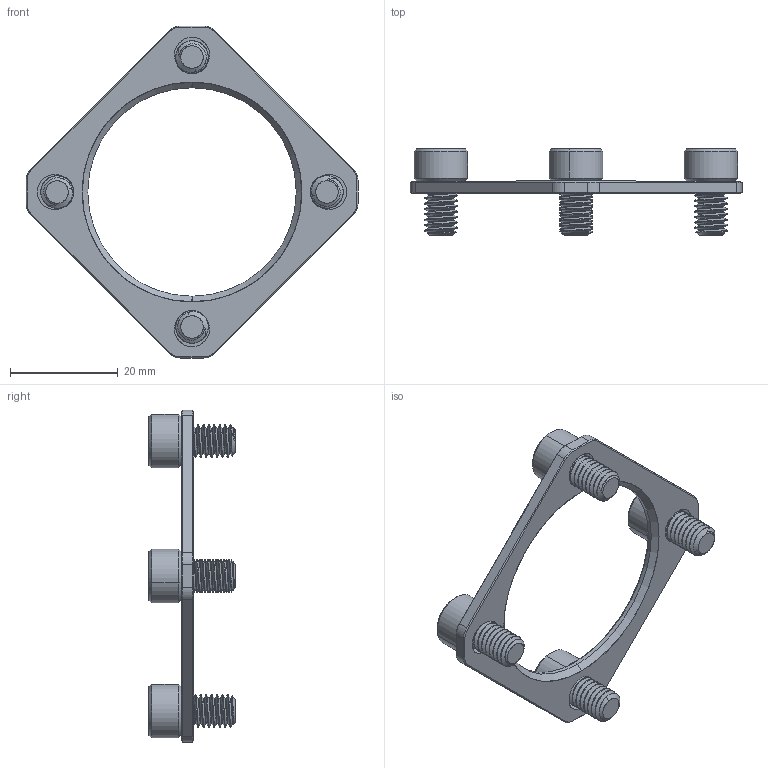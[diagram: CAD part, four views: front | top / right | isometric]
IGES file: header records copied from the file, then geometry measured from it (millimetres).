
Start section: SolidWorks IGES file using analytic representation for surfaces
Global section: file name: Z:\g2 CAD\EREZ PDM TMP\OT-IGES\BC0500-OTX-Metric Table Clamp.IGS; native system: SolidWorks 2015; preprocessor: SolidWorks 2015; author: Erez; date: 160101.185547; units: millimetre
Bounding box: 61.5 x 16 x 61.5 mm (x, y, z)
Surface area: 5371.4 mm2 (no closed solid volume)
Topology: 0 solids, 0 shells, 342 faces, 6832 edges, 6832 vertices
Faces by surface type: revolution 268, bspline 74
